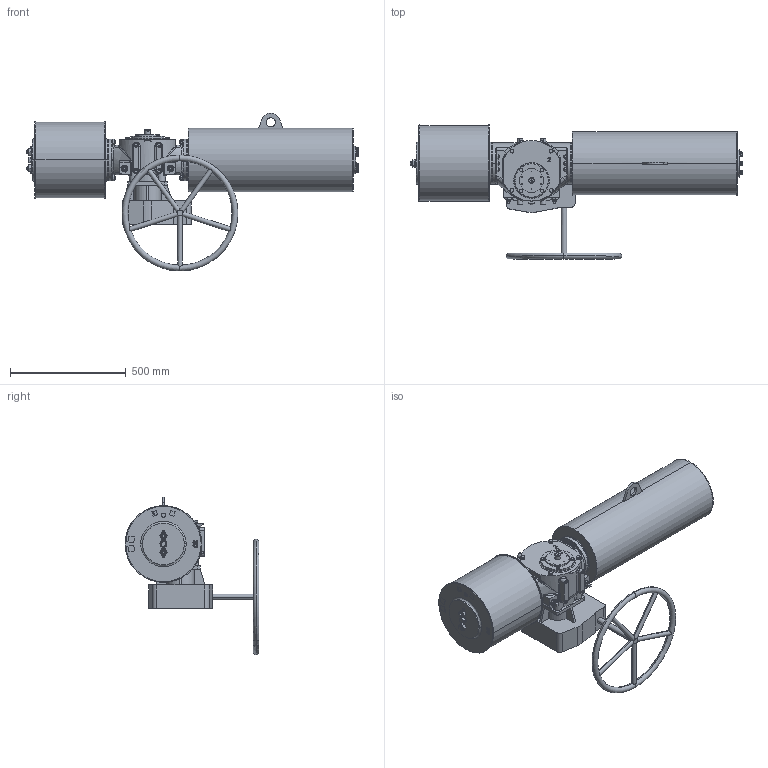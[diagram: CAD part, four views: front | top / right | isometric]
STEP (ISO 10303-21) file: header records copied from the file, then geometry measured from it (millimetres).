
FILE_DESCRIPTION (( 'STEP AP203' ), '1' );
FILE_NAME ('VTS2-300-SR-MW-FC.STEP', '2023-01-01T08:11:24', ( '' ), ( '' ), 'SwSTEP 2.0', 'SolidWorks 2020', '' );
FILE_SCHEMA (( 'CONFIG_CONTROL_DESIGN' ));
Length unit declared in the file: millimetre
Products named in the file (1): VTS2-300-SR-MW-FC
Bounding box: 1433.78 x 578.39 x 681.5 mm (x, y, z)
Volume: 89201758.5 mm3; surface area: 2498837.2 mm2
Topology: 9 solids, 11 shells, 2028 faces, 5152 edges, 3233 vertices
Faces by surface type: plane 805, cylinder 638, cone 420, bspline 161, torus 4
Entity records: 77936 total; most frequent: CARTESIAN_POINT 30242, ORIENTED_EDGE 10188, DIRECTION 9774, EDGE_CURVE 5094, AXIS2_PLACEMENT_3D 3830, VERTEX_POINT 3233, EDGE_LOOP 2255, LINE 2114
